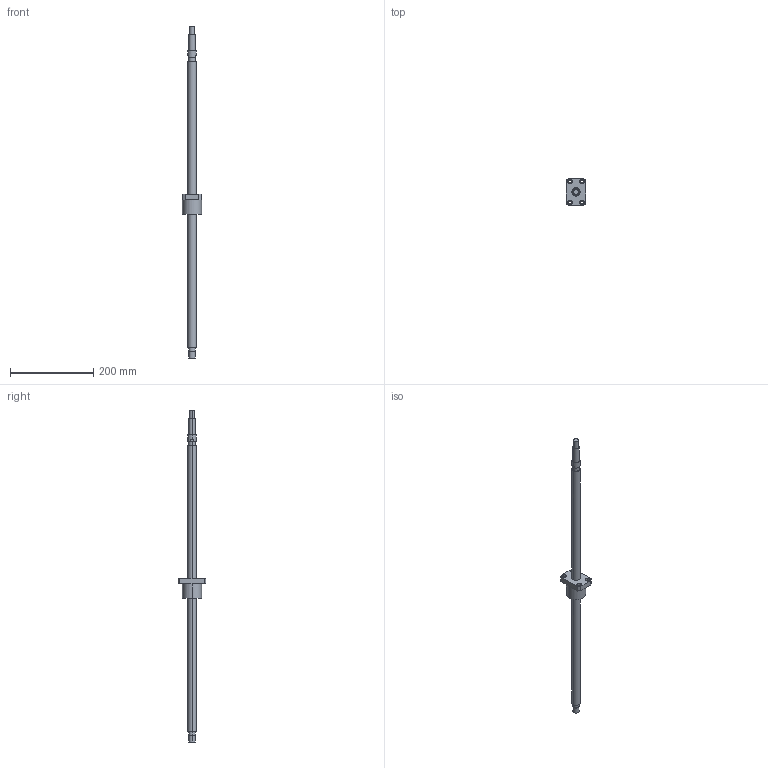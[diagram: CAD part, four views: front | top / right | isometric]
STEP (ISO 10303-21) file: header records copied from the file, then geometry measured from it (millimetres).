
FILE_DESCRIPTION((''),'2;1');
FILE_NAME('R20-10K3-FSC-689-799','2008-04-03T',('wcwu'),(''),'PRO/ENGINEER BY PARAMETRIC TECHNOLOGY CORPORATION, 2005070','PRO/ENGINEER BY PARAMETRIC TECHNOLOGY CORPORATION, 2005070','');
FILE_SCHEMA(('CONFIG_CONTROL_DESIGN'));
Length unit declared in the file: millimetre
Products named in the file (1): R20-10K3-FSC-689-799
Bounding box: 46 x 66 x 799 mm (x, y, z)
Volume: 315311.3 mm3; surface area: 60690.1 mm2
Topology: 1 solids, 1 shells, 65 faces, 146 edges, 96 vertices
Faces by surface type: cylinder 40, plane 25
Entity records: 1906 total; most frequent: DIRECTION 360, CARTESIAN_POINT 307, ORIENTED_EDGE 292, AXIS2_PLACEMENT_3D 149, EDGE_CURVE 146, VERTEX_POINT 96, EDGE_LOOP 86, CIRCLE 84
